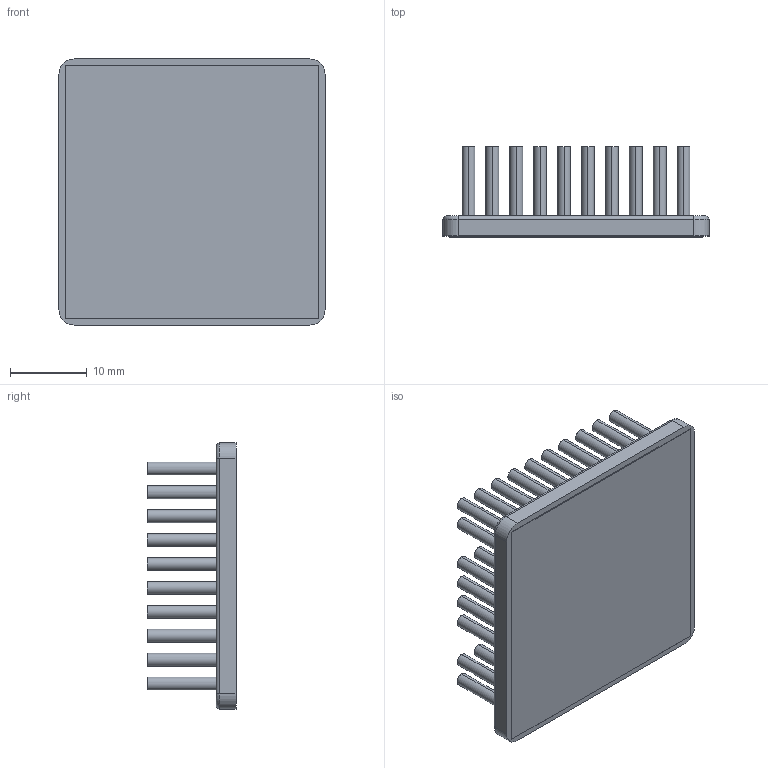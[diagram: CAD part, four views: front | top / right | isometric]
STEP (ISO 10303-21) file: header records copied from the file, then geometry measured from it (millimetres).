
FILE_DESCRIPTION (( 'STEP AP214' ), '1' );
FILE_NAME ('INM35002-12PCU-2.6.STEP', '2023-02-28T22:48:34', ( '' ), ( '' ), 'SwSTEP 2.0', 'SolidWorks 2020', '' );
FILE_SCHEMA (( 'AUTOMOTIVE_DESIGN' ));
Length unit declared in the file: inch
Products named in the file (1): INM35002-12PCU-2.6
Bounding box: 34.7 x 11.73 x 34.7 mm (x, y, z)
Volume: 5066.2 mm3; surface area: 9262.5 mm2
Topology: 2 solids, 2 shells, 300 faces, 604 edges, 400 vertices
Faces by surface type: cylinder 192, plane 104, torus 4
Entity records: 11963 total; most frequent: DIRECTION 1594, CARTESIAN_POINT 1305, ORIENTED_EDGE 1208, AXIS2_PLACEMENT_3D 689, EDGE_CURVE 604, VERTEX_POINT 400, EDGE_LOOP 392, CIRCLE 388
